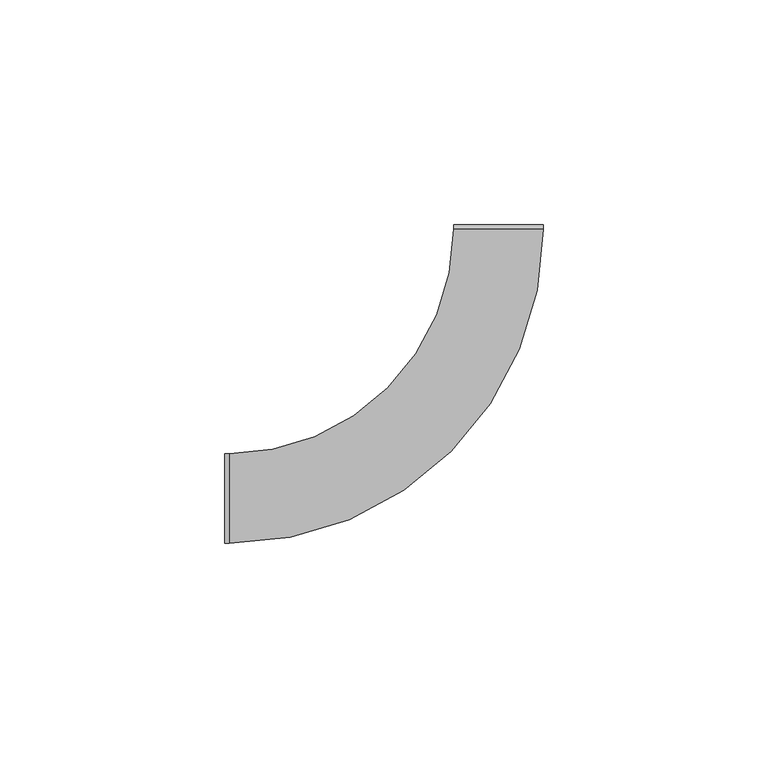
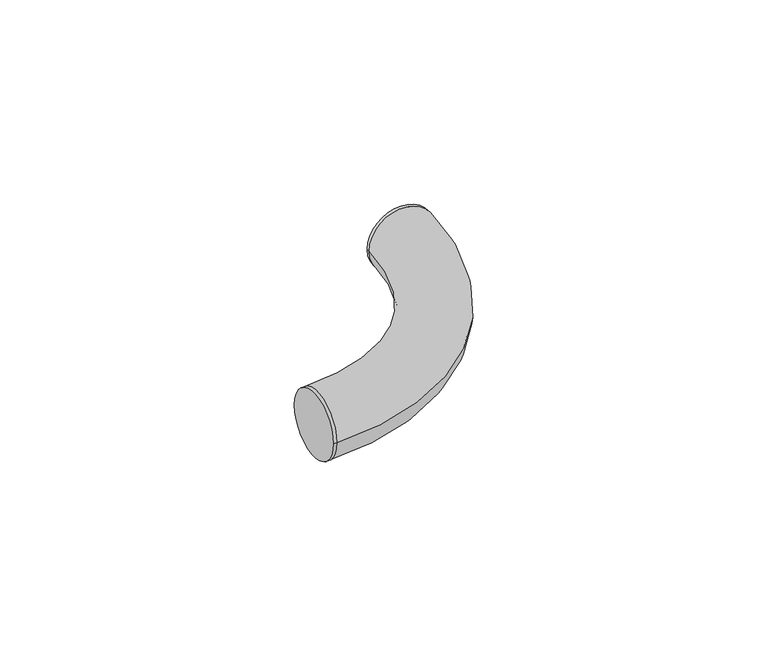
"""IFC4 building model written with IfcOpenShell, lengths in millimetres: cable carrier fitting geometry, ADSK_Поворот_Минимальный размер : Неспецифицируемый."""

from ifc_helpers import new_model, si_unit, point, frame, origin, place, context, project, spatial, circle_curve, ellipse_curve, trimmed, source, transform, mapped, element, save
from ifc_brep_helpers import plane_surface, cylinder_surface, revolved_surface, advanced_brep


def cable_carrier_fitting_ce951043(model_context):
    return source(origin(), model_context, "Body", "AdvancedBrep", [
        advanced_brep(
        [(-61.0, -10.0, 0.0), (-61.0, 10.0, 0.0), (-60.0, -10.0, 0.0), (-60.0, 10.0, 0.0), (-10.0, 60.0, 0.0), (10.0, 60.0, 0.0), (10.0, 61.0, 0.0), (-10.0, 61.0, 0.0)],
        [
            (0, 1, circle_curve(frame((-61.0, 0.0, 0.0), z_axis=(-1.0, -4.928948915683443e-12, 0.0), x_axis=(-4.928948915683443e-12, 1.0, 0.0)), 10.0)),
            (1, 0, circle_curve(frame((-61.0, 0.0, 0.0), z_axis=(-1.0, -4.928948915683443e-12, 0.0), x_axis=(-4.928948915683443e-12, 1.0, 0.0)), 10.0)),
            (0, 2),
            (2, 3, circle_curve(frame((-60.0, 0.0, 0.0), z_axis=(-1.0, -4.928948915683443e-12, 0.0), x_axis=(-4.928948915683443e-12, 1.0, 0.0)), 10.0)),
            (3, 1),
            (3, 2, circle_curve(frame((-60.0, 0.0, 0.0), z_axis=(-1.0, -4.928948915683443e-12, 0.0), x_axis=(-4.928948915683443e-12, 1.0, 0.0)), 10.0)),
            (4, 3, circle_curve(frame((-60.0, 60.0, 0.0), z_axis=(0.0, 0.0, -1.0), x_axis=(0.0, -1.0, 0.0)), 50.0)),
            (2, 5, circle_curve(frame((-60.0, 60.0, 0.0), z_axis=(0.0, 0.0, 1.0), x_axis=(0.0, -1.0, 0.0)), 70.0)),
            (5, 4, circle_curve(frame((0.0, 60.0, 0.0), z_axis=(0.0, -1.0, 0.0), x_axis=(-1.0, 0.0, 0.0)), 10.0)),
            (4, 5, circle_curve(frame((0.0, 60.0, 0.0), z_axis=(0.0, -1.0, 0.0), x_axis=(-1.0, 0.0, 0.0)), 10.0)),
            (6, 7, circle_curve(frame((0.0, 61.0, 0.0), z_axis=(0.0, 1.0, 0.0), x_axis=(-1.0, 0.0, 0.0)), 10.0)),
            (7, 6, circle_curve(frame((0.0, 61.0, 0.0), z_axis=(0.0, 1.0, 0.0), x_axis=(-1.0, 0.0, 0.0)), 10.0)),
            (5, 6),
            (7, 4),
        ],
        [
            plane_surface(frame((-61.0, 0.0, 0.0), z_axis=(-1.0, -4.928948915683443e-12, 0.0), x_axis=(0.0, 0.0, 1.0))),
            cylinder_surface(frame((-61.0, 0.0, 0.0), z_axis=(-1.0, -4.928948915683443e-12, 0.0), x_axis=(-4.928948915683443e-12, 1.0, 0.0)), 10.0),
            revolved_surface(trimmed(ellipse_curve(frame((-60.0, 0.0, 0.0), z_axis=(-1.0, 0.0, 0.0), x_axis=(0.0, 1.0, 0.0)), 10.0, 10.0), [point((-60.0, -10.0, 0.0))], [point((-60.0, 10.0, 0.0))], True, "CARTESIAN"), (-60.0, 60.0, 0.0), (0.0, 0.0, 1.0)),
            revolved_surface(trimmed(ellipse_curve(frame((-60.0, 0.0, 0.0), z_axis=(-1.0, 0.0, 0.0), x_axis=(0.0, 1.0, 0.0)), 10.0, 10.0), [point((-60.0, 10.0, 0.0))], [point((-60.0, -10.0, 0.0))], True, "CARTESIAN"), (-60.0, 60.0, 0.0), (0.0, 0.0, 1.0)),
            plane_surface(frame((0.0, 61.0, 0.0), z_axis=(0.0, 1.0, 0.0), x_axis=(0.0, 0.0, 1.0))),
            cylinder_surface(frame((0.0, 60.0, 0.0), z_axis=(0.0, -1.0, 0.0), x_axis=(-1.0, 0.0, 0.0)), 10.0),
        ],
        [
            (0, [[1, 2]]),
            (1, [[-1, 3, 4, 5]]),
            (1, [[-2, -5, 6, -3]]),
            (2, [[7, -4, 8, 9]]),
            (3, [[-8, -6, -7, 10]]),
            (4, [[11, 12]]),
            (5, [[-9, 13, -12, 14]]),
            (5, [[-10, -14, -11, -13]]),
        ],
    ),
    ])


if __name__ == "__main__":
    model = new_model("IFC4")
    model_context = context("Model", 3, world=origin())
    ifc_project = project(units=[si_unit("LENGTHUNIT", "METRE", prefix="MILLI")], contexts=[model_context])
    site = spatial("IfcSite", under=ifc_project)
    building = spatial("IfcBuilding", under=site)
    placement = place(None, origin())
    cable_carrier_fitting_shape = cable_carrier_fitting_ce951043(model_context)
    element("IfcCableCarrierFitting", 1, ObjectType="ADSK_Поворот_Минимальный размер : Неспецифицируемый", at=placement, inside=building, context=model_context, shape_type="MappedRepresentation", body=[
        mapped(cable_carrier_fitting_shape, transform((0.0, 0.0, 0.0), x_axis=(1.0, 0.0, 0.0), y_axis=(0.0, 1.0, 0.0), z_axis=(0.0, 0.0, 1.0))),
    ])
    save(model, "model.ifc")
